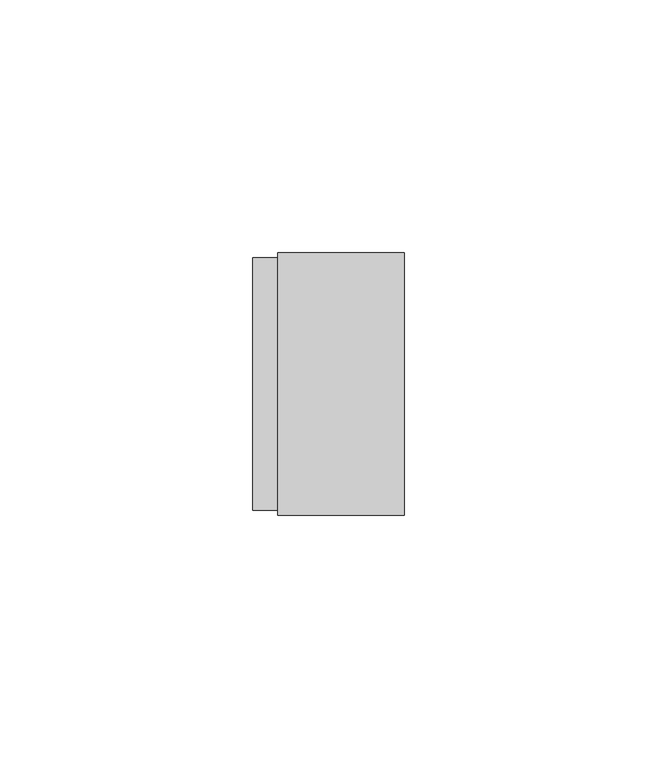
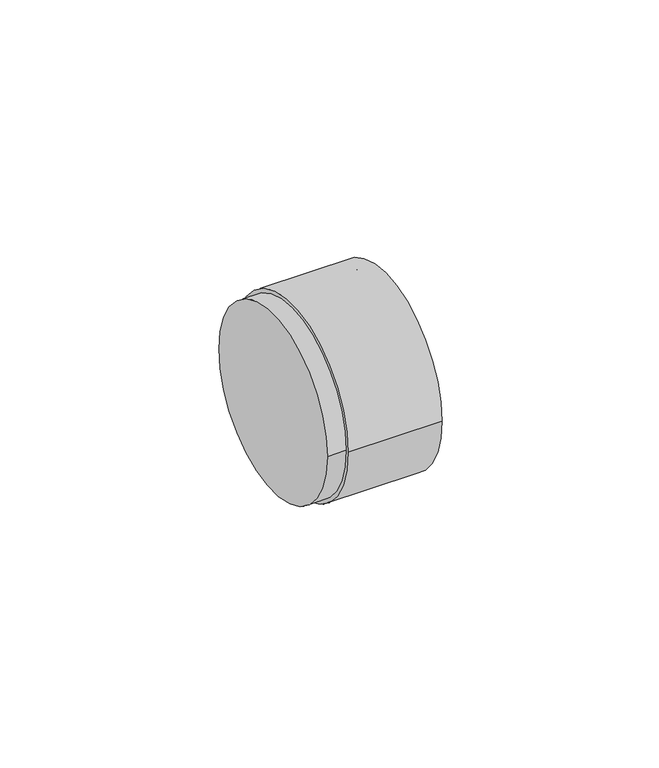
"""IFC4 building model written with IfcOpenShell, lengths in millimetres: pipe fitting geometry, NLRS_52_PIF_UN_PE aansluitmof_geb : DN40-60 / ø40-63."""

from ifc_helpers import new_model, si_unit, point, frame, origin, origin_2d, place, context, project, spatial, circle_curve, trimmed, segment, composite_curve, outline, extrude, source, transform, mapped, element, save


def pipe_fitting_5e71ca5e(model_context):
    return source(origin(), model_context, "Body", "SweptSolid", [
        extrude(outline(composite_curve([segment(trimmed(circle_curve(origin_2d(), 25.0), [point((-25.0, 0.0))], [point((25.0, 0.0))], False, "CARTESIAN"), True, "CONTINUOUS"), segment(trimmed(circle_curve(origin_2d(), 25.0), [point((25.0, 0.0))], [point((-25.0, 0.0))], False, "CARTESIAN"), True, "CONTINUOUS")], self_intersect=False)), frame((-5.0, 0.0, 0.0), z_axis=(1.0, 0.0, 0.0), x_axis=(0.0, 1.0, 0.0)), (0.0, 0.0, 1.0), 5.0),
        extrude(outline(composite_curve([segment(trimmed(circle_curve(origin_2d(), 26.0), [point((-26.0, 0.0))], [point((26.0, 0.0))], False, "CARTESIAN"), True, "CONTINUOUS"), segment(trimmed(circle_curve(origin_2d(), 26.0), [point((26.0, 0.0))], [point((-26.0, 0.0))], False, "CARTESIAN"), True, "CONTINUOUS")], self_intersect=False), holes=[composite_curve([segment(trimmed(circle_curve(origin_2d(), 23.0), [point((-23.0, 0.0))], [point((23.0, 0.0))], True, "CARTESIAN"), True, "CONTINUOUS"), segment(trimmed(circle_curve(origin_2d(), 23.0), [point((23.0, 0.0))], [point((-23.0, 0.0))], True, "CARTESIAN"), True, "CONTINUOUS")], self_intersect=False)]), frame((0.0, 0.0, 0.0), z_axis=(1.0, 0.0, 0.0), x_axis=(0.0, 1.0, 0.0)), (0.0, 0.0, 1.0), 25.0),
    ])


if __name__ == "__main__":
    model = new_model("IFC4")
    model_context = context("Model", 3, world=origin())
    ifc_project = project(units=[si_unit("LENGTHUNIT", "METRE", prefix="MILLI")], contexts=[model_context])
    site = spatial("IfcSite", under=ifc_project)
    building = spatial("IfcBuilding", under=site)
    placement = place(None, origin())
    pipe_fitting_shape = pipe_fitting_5e71ca5e(model_context)
    element("IfcPipeFitting", 1, ObjectType="NLRS_52_PIF_UN_PE aansluitmof_geb : DN40-60 / ø40-63", at=placement, inside=building, context=model_context, shape_type="MappedRepresentation", body=[
        mapped(pipe_fitting_shape, transform((0.0, 0.0, 0.0), x_axis=(1.0, 0.0, 0.0), y_axis=(0.0, 1.0, 0.0), z_axis=(0.0, 0.0, 1.0))),
    ])
    save(model, "model.ifc")
